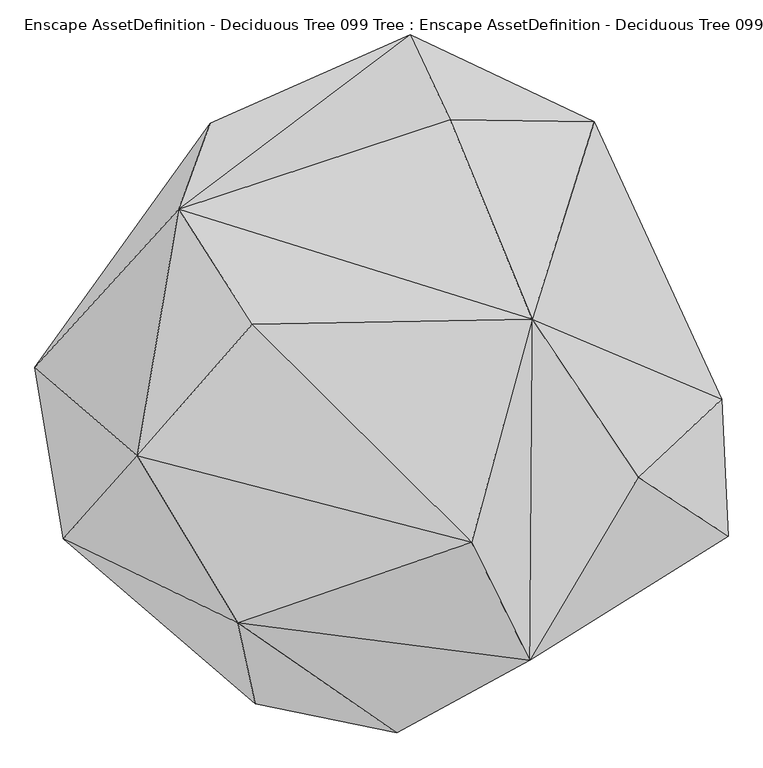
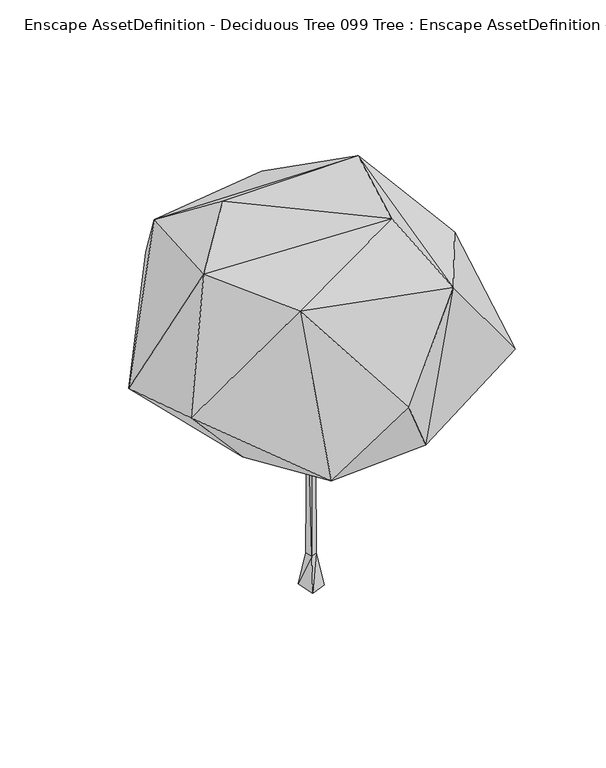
"""IFC4 building model written with IfcOpenShell, lengths in millimetres: geographic element geometry, Enscape AssetDefinition - Deciduous Tree 099 Tree : Enscape AssetDefinition - Deciduous Tree 099 Tree 3."""

from ifc_helpers import new_model, si_unit, origin, place, context, project, spatial, triangles, source, transform, mapped, element, save


def enscape_assetdefinition_deciduous_tree_099_tree_enscape_5098c912(model_context):
    return source(origin(), model_context, "Body", "Tessellation", [
        triangles([(1613.866317, -423.0148773, 4199.7477219), (2182.0865753, -795.2307478, 2623.2805756), (2142.3017944, 69.3133973, 2563.0673904), (775.7645668, -821.4236984, 1762.8538799), (-917.1339174, -1343.0396793, 4563.2150711), (943.2612471, 575.4002707, 4869.3690582), (927.0700115, -1579.7521202, 4380.5395935), (-1550.8889111, -289.4150924, 4652.8572739), (560.7724208, -835.957259, 5000.0000381), (-2199.3846474, 273.0183643, 2971.0218498), (-2019.8964752, -813.8899286, 3165.3803352), (-1491.0988106, -1049.8896223, 2586.6627525), (-806.7486494, -1856.4144482, 2510.3412483), (508.8766422, -1687.2010849, 2438.6813782), (89.008684, -2040.2016312, 3309.3590469), (-1050.5467043, -449.6105287, 2250.5188808), (-1090.3297411, 1813.6427856, 3514.3849045), (-843.2028923, 1440.2795288, 2180.093819), (424.650715, 1835.4301186, 4075.824472), (1337.4635662, 1824.7582409, 2992.4775169), (172.041897, 2372.2233707, 2917.704174), (621.1655731, 1729.0594311, 2226.5546459), (-1291.4605602, 1269.8397869, 4361.3852394), (-824.3397995, 543.1339989, 4888.4539398), (-14.0702292, -41.3767804, 2505.9107048), (-54.0251635, -138.229208, -332.3232473), (-103.1311323, 103.1294518, -332.139574), (0.0, 151.3560321, -332.5607692), (138.229208, -54.0251635, -332.3215396), (0.0117926, 61.1108184, 109.7888836), (3.926928, 46.6497461, 2505.7944328), (-23.3476165, -55.8226873, 109.802373), (-42.4330613, 42.446537, 109.8006834), (55.8344735, -23.3560394, 109.7686814), (-28.327452, 32.9012893, 2505.8604172), (46.0752808, -17.4210035, 2505.77612)], [[27, 28, 29], [36, 31, 35], [32, 25, 35], [31, 36, 34], [29, 28, 30], [30, 33, 35], [34, 32, 26], [27, 33, 30], [32, 33, 27], [25, 32, 34], [27, 29, 26], [36, 35, 25], [32, 35, 33], [31, 34, 30], [29, 30, 34], [30, 35, 31], [34, 26, 29], [27, 30, 28], [32, 27, 26], [25, 34, 36], [6, 23, 24], [20, 19, 6], [19, 23, 6], [20, 22, 21], [20, 21, 19], [21, 23, 19], [21, 17, 23], [22, 18, 21], [18, 17, 21], [4, 18, 22], [16, 4, 14], [4, 16, 18], [16, 10, 18], [17, 18, 10], [17, 10, 23], [16, 12, 10], [16, 14, 13], [16, 13, 12], [13, 14, 15], [11, 12, 13], [10, 12, 11], [10, 11, 8], [10, 8, 23], [23, 8, 24], [9, 6, 24], [8, 9, 24], [11, 13, 5], [13, 15, 5], [11, 5, 8], [8, 5, 9], [15, 14, 7], [15, 7, 5], [9, 7, 6], [5, 7, 9], [7, 1, 6], [3, 4, 22], [3, 22, 20], [3, 20, 6], [3, 6, 1], [4, 2, 14], [2, 3, 1], [14, 2, 7], [2, 1, 7], [2, 4, 3]]),
    ])


if __name__ == "__main__":
    model = new_model("IFC4")
    model_context = context("Model", 3, world=origin())
    ifc_project = project(units=[si_unit("LENGTHUNIT", "METRE", prefix="MILLI")], contexts=[model_context])
    site = spatial("IfcSite", under=ifc_project)
    building = spatial("IfcBuilding", under=site)
    placement = place(None, origin())
    enscape_assetdefinition_deciduous_tree_099_tree_enscape_shape = enscape_assetdefinition_deciduous_tree_099_tree_enscape_5098c912(model_context)
    element("IfcGeographicElement", 1, ObjectType="Enscape AssetDefinition - Deciduous Tree 099 Tree : Enscape AssetDefinition - Deciduous Tree 099 Tree 3", at=placement, inside=building, context=model_context, shape_type="MappedRepresentation", body=[
        mapped(enscape_assetdefinition_deciduous_tree_099_tree_enscape_shape, transform((0.0, 0.0, 0.0), x_axis=(1.0, 0.0, 0.0), y_axis=(0.0, 1.0, 0.0), z_axis=(0.0, 0.0, 1.0))),
    ])
    save(model, "model.ifc")
